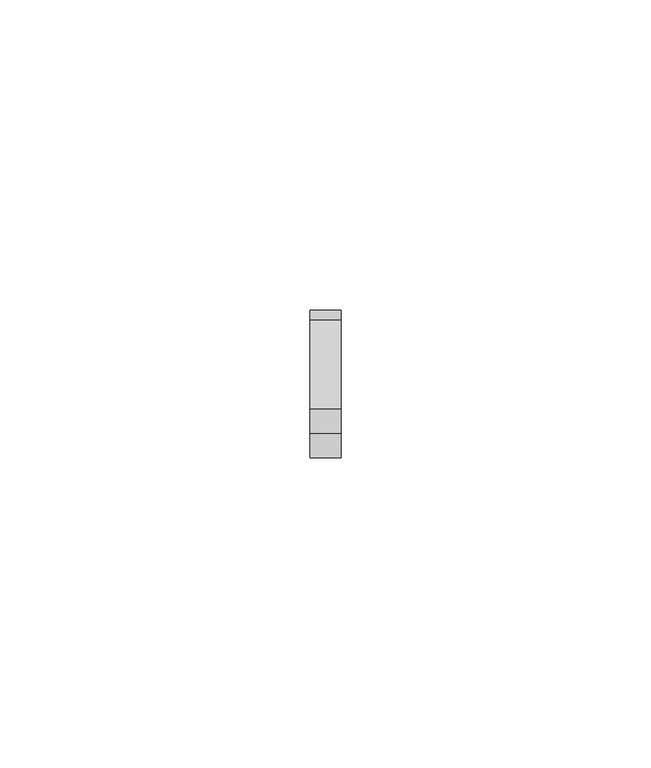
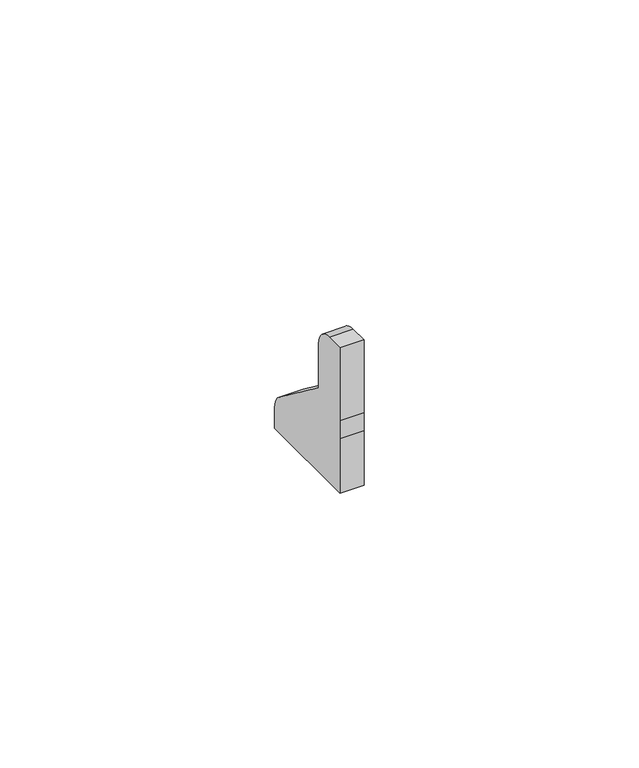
"""IFC4 building model written with IfcOpenShell, lengths in millimetres: proxy geometry, Odbojnik przyścienny K30 : Odbojnik przyścienny K30."""

from ifc_helpers import new_model, si_unit, frame, origin, place, context, project, spatial, circle_curve, source, transform, mapped, element, save
from ifc_brep_helpers import plane_surface, cylinder_surface, advanced_brep


def generic_models_88e95f6f(model_context):
    return source(origin(), model_context, "Body", "AdvancedBrep", [
        advanced_brep(
        [(2.5, -7.3720356, 24.7926359), (2.5, -7.3720356, 8.5973234), (2.5, -7.3720356, 4.5973234), (2.5, -7.3720356, -7.4688605), (2.5, 16.4291679, -7.4688605), (2.5, 16.4291679, -2.8354491), (2.5, 14.835873, 0.3595111), (2.5, 0.4354121, 11.2071156), (2.5, 0.4354121, 21.0412962), (2.5, -3.4590893, 24.7926359), (-2.5, -7.3720356, 24.7926359), (-2.5, -3.4590893, 24.7926359), (-2.5, 0.4350252, 21.0413357), (-2.5, 0.4354121, 11.2071156), (-2.5, 14.835873, 0.3595111), (-2.5, 16.4291679, -2.8354491), (-2.5, 16.4291679, -7.4688605), (-2.5, -7.3720356, -7.4688605), (-2.5, -7.3720356, 4.5973234), (-2.5, -7.3720356, 8.5973234)],
        [
            (0, 1),
            (1, 2),
            (2, 3),
            (3, 4),
            (4, 5),
            (5, 6, circle_curve(frame((2.5, 12.4291679, -2.8354491), z_axis=(1.0, 0.0, 0.0), x_axis=(0.0, 1.0, 0.0)), 4.0)),
            (6, 7),
            (7, 8),
            (8, 9, circle_curve(frame((2.5, -3.3190368, 21.0411872), z_axis=(1.0, 0.0, 0.0), x_axis=(0.0, 0.9999999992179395, 3.954897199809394e-05)), 3.754062)),
            (9, 0),
            (10, 11),
            (11, 12, circle_curve(frame((-2.5, -3.3190368, 21.0411872), z_axis=(-1.0, 0.0, 0.0), x_axis=(0.0, 0.9999999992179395, 3.954897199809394e-05)), 3.754062)),
            (12, 13),
            (13, 14),
            (14, 15, circle_curve(frame((-2.5, 12.4291679, -2.8354491), z_axis=(-1.0, 0.0, 0.0), x_axis=(0.0, 1.0, 0.0)), 4.0)),
            (15, 16),
            (16, 17),
            (17, 18),
            (18, 19),
            (19, 10),
            (3, 17),
            (16, 4),
            (2, 18),
            (1, 19),
            (0, 10),
            (9, 11),
            (8, 12),
            (7, 13),
            (6, 14),
            (5, 15),
        ],
        [
            plane_surface(frame((2.5, -7.3720356, 24.7926359), z_axis=(1.0, 0.0, 0.0), x_axis=(0.0, 1.0, 0.0))),
            plane_surface(frame((-2.5, -7.3720356, 24.7926359), z_axis=(-1.0, 0.0, 0.0), x_axis=(0.0, -1.0, 0.0))),
            plane_surface(frame((2.5, 16.4291679, -7.4688605), z_axis=(0.0, 0.0, -1.0), x_axis=(-1.0, 0.0, 0.0))),
            plane_surface(frame((2.5, -7.3720356, -7.4688605), z_axis=(0.0, -1.0, 0.0), x_axis=(-1.0, 0.0, 0.0))),
            plane_surface(frame((2.5, -7.3720356, 4.5973234), z_axis=(0.0, -1.0, -1.1571556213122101e-12), x_axis=(-1.0, 0.0, 0.0))),
            plane_surface(frame((2.5, -7.3720356, 8.5973234), z_axis=(0.0, -1.0, 0.0), x_axis=(-1.0, 0.0, 0.0))),
            plane_surface(frame((2.5, -7.3720356, 24.7926359), z_axis=(0.0, 0.0, 1.0), x_axis=(-1.0, 0.0, 0.0))),
            cylinder_surface(frame((-2.5, -3.3190368, 21.0411872), z_axis=(1.0000000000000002, 0.0, 0.0), x_axis=(0.0, 0.9999999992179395, 3.954897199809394e-05)), 3.754062),
            plane_surface(frame((2.5, 0.4354121, 21.0412962), z_axis=(0.0, 1.0, 0.0), x_axis=(-1.0, 0.0, 0.0))),
            plane_surface(frame((2.5, 0.4354121, 11.2071156), z_axis=(0.0, 0.601676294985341, 0.7987400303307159), x_axis=(-1.0, 0.0, 0.0))),
            cylinder_surface(frame((-2.5, 12.4291679, -2.8354491), z_axis=(1.0, 0.0, 0.0), x_axis=(0.0, 1.0, 0.0)), 4.0),
            plane_surface(frame((2.5, 16.4291679, -2.8354491), z_axis=(0.0, 1.0, 0.0), x_axis=(-1.0, 0.0, 0.0))),
        ],
        [
            (0, [[1, 2, 3, 4, 5, 6, 7, 8, 9, 10]]),
            (1, [[11, 12, 13, 14, 15, 16, 17, 18, 19, 20]]),
            (2, [[21, -17, 22, -4]]),
            (3, [[23, -18, -21, -3]]),
            (4, [[24, -19, -23, -2]]),
            (5, [[25, -20, -24, -1]]),
            (6, [[26, -11, -25, -10]]),
            (7, [[27, -12, -26, -9]]),
            (8, [[28, -13, -27, -8]]),
            (9, [[29, -14, -28, -7]]),
            (10, [[30, -15, -29, -6]]),
            (11, [[-22, -16, -30, -5]]),
        ],
    ),
    ])


if __name__ == "__main__":
    model = new_model("IFC4")
    model_context = context("Model", 3, world=origin())
    ifc_project = project(units=[si_unit("LENGTHUNIT", "METRE", prefix="MILLI")], contexts=[model_context])
    site = spatial("IfcSite", under=ifc_project)
    building = spatial("IfcBuilding", under=site)
    placement = place(None, origin())
    generic_models_shape = generic_models_88e95f6f(model_context)
    element("IfcBuildingElementProxy", 1, Name="Odbojnik przyścienny K30 : Odbojnik przyścienny K30", ObjectType="Odbojnik przyścienny K30 : Odbojnik przyścienny K30", at=placement, inside=building, context=model_context, shape_type="MappedRepresentation", body=[
        mapped(generic_models_shape, transform((0.0, 0.0, 0.0), x_axis=(1.0, 0.0, 0.0), y_axis=(0.0, 1.0, 0.0), z_axis=(0.0, 0.0, 1.0))),
    ])
    save(model, "model.ifc")
